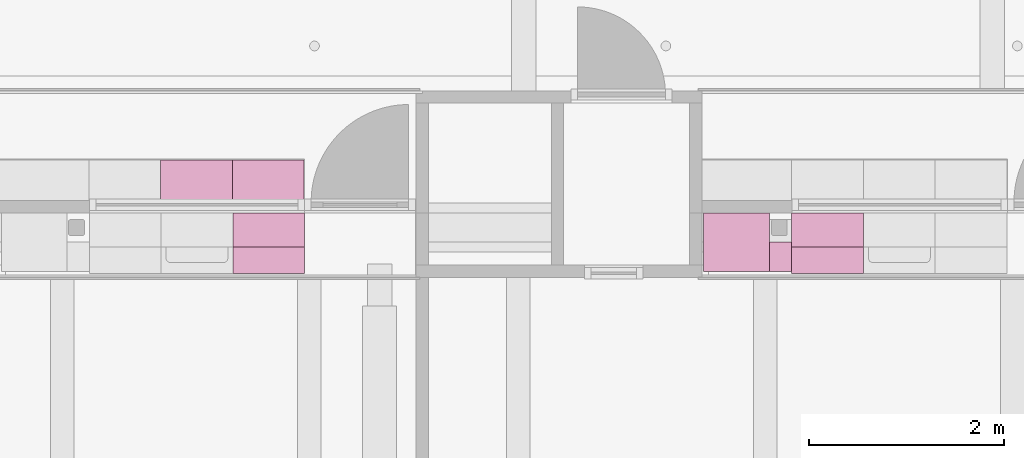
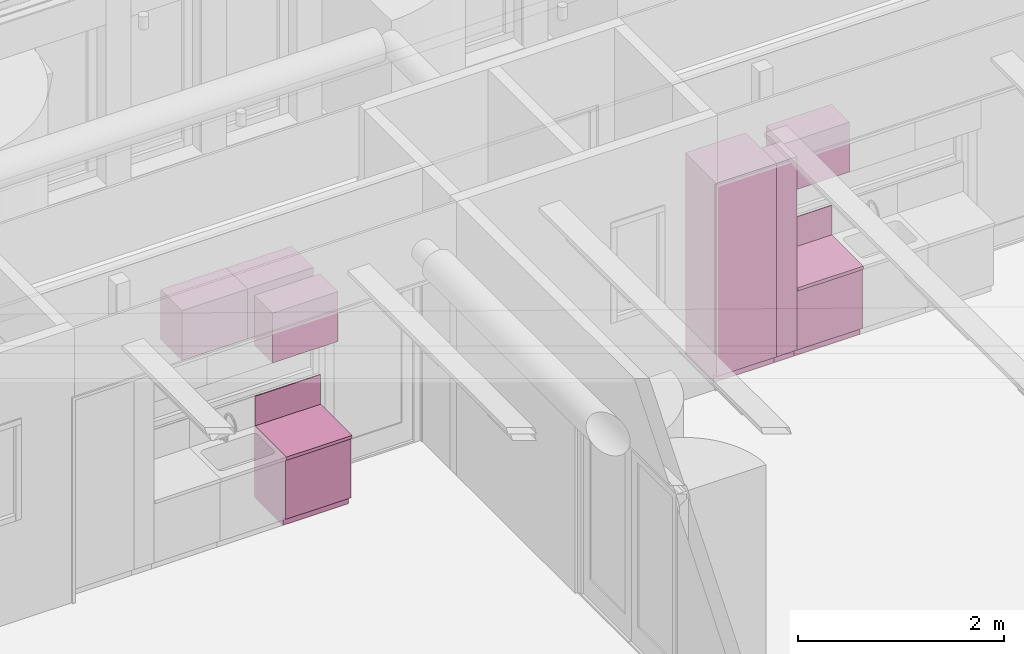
# One storey, part 89 of 128: 6 furnishings.
"""IFC2X3 building model written with IfcOpenShell, lengths in millimetres."""

from ifc_helpers import new_model, entity, si_unit, converted_unit, derived_unit, direction, frame, origin, origin_2d_with_axis, place, context, subcontext, project, spatial, polyline, rectangle, outline, extrude, source, transform, mapped, material, type_object, type_shapes, element, save


model = new_model("IFC2X3")

# Units and contexts
model_context = context("Model", 3, precision=0.01, world=origin(), true_north=direction((6.123031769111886e-17, 1.0)))
body_context = subcontext(model_context, "Body", "Model", "MODEL_VIEW")
ifc_project = project(units=[si_unit("LENGTHUNIT", "METRE", prefix="MILLI"), si_unit("AREAUNIT", "SQUARE_METRE"), si_unit("VOLUMEUNIT", "CUBIC_METRE"), converted_unit("PLANEANGLEUNIT", "DEGREE", entity("IfcRatioMeasure", 0.017453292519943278), si_unit("PLANEANGLEUNIT", "RADIAN"), dimensions=[0, 0, 0, 0, 0, 0, 0]), si_unit("MASSUNIT", "GRAM", prefix="KILO"), derived_unit("MASSDENSITYUNIT", [(si_unit("MASSUNIT", "GRAM", prefix="KILO"), 1), (si_unit("LENGTHUNIT", "METRE"), -3)]), derived_unit("IONCONCENTRATIONUNIT", [(si_unit("MASSUNIT", "GRAM", prefix="KILO"), 1), (si_unit("LENGTHUNIT", "METRE"), -3)]), derived_unit("MOMENTOFINERTIAUNIT", [(si_unit("LENGTHUNIT", "METRE"), 4)]), si_unit("TIMEUNIT", "SECOND"), si_unit("FREQUENCYUNIT", "HERTZ"), si_unit("THERMODYNAMICTEMPERATUREUNIT", "DEGREE_CELSIUS"), derived_unit("THERMALTRANSMITTANCEUNIT", [(si_unit("MASSUNIT", "GRAM", prefix="KILO"), 1), (si_unit("THERMODYNAMICTEMPERATUREUNIT", "KELVIN"), -1), (si_unit("TIMEUNIT", "SECOND"), -3)]), derived_unit("THERMALCONDUCTANCEUNIT", [(si_unit("MASSUNIT", "GRAM", prefix="KILO"), 1), (si_unit("THERMODYNAMICTEMPERATUREUNIT", "KELVIN"), -1), (si_unit("TIMEUNIT", "SECOND"), -3), (si_unit("LENGTHUNIT", "METRE"), 1)]), derived_unit("VOLUMETRICFLOWRATEUNIT", [(si_unit("LENGTHUNIT", "METRE"), 3), (si_unit("TIMEUNIT", "SECOND"), -1)]), derived_unit("MASSFLOWRATEUNIT", [(si_unit("MASSUNIT", "GRAM", prefix="KILO"), 1), (si_unit("TIMEUNIT", "SECOND"), -1)]), derived_unit("ROTATIONALFREQUENCYUNIT", [(si_unit("TIMEUNIT", "SECOND"), -1)]), si_unit("ELECTRICCURRENTUNIT", "AMPERE"), si_unit("ELECTRICVOLTAGEUNIT", "VOLT"), si_unit("POWERUNIT", "WATT"), si_unit("FORCEUNIT", "NEWTON", prefix="KILO"), si_unit("ILLUMINANCEUNIT", "LUX"), si_unit("LUMINOUSFLUXUNIT", "LUMEN"), si_unit("LUMINOUSINTENSITYUNIT", "CANDELA"), derived_unit("USERDEFINED", [(si_unit("MASSUNIT", "GRAM", prefix="KILO"), -1), (si_unit("LENGTHUNIT", "METRE"), -2), (si_unit("TIMEUNIT", "SECOND"), 3), (si_unit("LUMINOUSFLUXUNIT", "LUMEN"), 1)]), derived_unit("USERDEFINED", [(si_unit("MASSUNIT", "GRAM", prefix="KILO"), 1), (si_unit("TIMEUNIT", "SECOND"), -3), (si_unit("LENGTHUNIT", "METRE"), 3), (si_unit("ELECTRICCURRENTUNIT", "AMPERE"), -2)]), derived_unit("SOUNDPOWERUNIT", [(si_unit("MASSUNIT", "GRAM", prefix="KILO"), 1), (si_unit("TIMEUNIT", "SECOND"), -3), (si_unit("LENGTHUNIT", "METRE"), 2)]), derived_unit("SOUNDPRESSUREUNIT", [(si_unit("MASSUNIT", "GRAM", prefix="KILO"), 1), (si_unit("LENGTHUNIT", "METRE"), -1), (si_unit("TIMEUNIT", "SECOND"), -2)]), derived_unit("LINEARVELOCITYUNIT", [(si_unit("LENGTHUNIT", "METRE"), 1), (si_unit("TIMEUNIT", "SECOND"), -1)]), si_unit("PRESSUREUNIT", "PASCAL"), derived_unit("USERDEFINED", [(si_unit("MASSUNIT", "GRAM", prefix="KILO"), 1), (si_unit("LENGTHUNIT", "METRE"), -2), (si_unit("TIMEUNIT", "SECOND"), -2)]), derived_unit("LINEARFORCEUNIT", [(si_unit("MASSUNIT", "GRAM", prefix="KILO"), 1), (si_unit("TIMEUNIT", "SECOND"), -2)]), derived_unit("PLANARFORCEUNIT", [(si_unit("MASSUNIT", "GRAM", prefix="KILO"), 1), (si_unit("LENGTHUNIT", "METRE"), -1), (si_unit("TIMEUNIT", "SECOND"), -2)]), derived_unit("SPECIFICHEATCAPACITYUNIT", [(si_unit("THERMODYNAMICTEMPERATUREUNIT", "KELVIN"), -1), (si_unit("LENGTHUNIT", "METRE"), 2), (si_unit("TIMEUNIT", "SECOND"), -2)]), derived_unit("HEATINGVALUEUNIT", [(si_unit("LENGTHUNIT", "METRE"), 2), (si_unit("TIMEUNIT", "SECOND"), -2)]), derived_unit("VAPORPERMEABILITYUNIT", [(si_unit("LENGTHUNIT", "METRE"), -1), (si_unit("TIMEUNIT", "SECOND"), 1)]), derived_unit("DYNAMICVISCOSITYUNIT", [(si_unit("MASSUNIT", "GRAM", prefix="KILO"), 1), (si_unit("TIMEUNIT", "SECOND"), -1), (si_unit("LENGTHUNIT", "METRE"), -1)]), derived_unit("THERMALEXPANSIONCOEFFICIENTUNIT", [(si_unit("THERMODYNAMICTEMPERATUREUNIT", "KELVIN"), -1)]), derived_unit("MODULUSOFELASTICITYUNIT", [(si_unit("MASSUNIT", "GRAM", prefix="KILO"), 1), (si_unit("LENGTHUNIT", "METRE"), -1), (si_unit("TIMEUNIT", "SECOND"), -2)]), derived_unit("ISOTHERMALMOISTURECAPACITYUNIT", [(si_unit("LENGTHUNIT", "METRE"), 3), (si_unit("MASSUNIT", "GRAM", prefix="KILO"), -1)]), derived_unit("MOISTUREDIFFUSIVITYUNIT", [(si_unit("TIMEUNIT", "SECOND"), -1), (si_unit("LENGTHUNIT", "METRE"), 2)])], contexts=[model_context])

# Site, building, storey, space
site_placement = place(None, frame((0.0, 300.0, 0.0)))
site = spatial("IfcSite", under=ifc_project, at=site_placement, Name="<Kadastrale nummers>", CompositionType="ELEMENT")
building_placement = place(site_placement, origin())
building = spatial("IfcBuilding", under=site, at=building_placement, CompositionType="ELEMENT")
storey_placement = place(building_placement, frame((0.0, 0.0, 3560.0000331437)))
storey = spatial("IfcBuildingStorey", under=building, at=storey_placement, Name="01 eerste verdieping", CompositionType="ELEMENT", Elevation=3560.0000331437)
space_1_placement = place(storey_placement, origin())
space_1 = spatial("IfcSpace", under=storey, at=space_1_placement, Name="1.02", CompositionType="ELEMENT", InteriorOrExteriorSpace="INTERNAL")

# Furnishing
ifc_material = material(Name="ISR_HPL Kleur hout")
furniture_type_1 = type_object("IfcFurnitureType", Name="00_DAT Vaste inrichting Keukenkasten:Kast met Bovenkast bovenbouw", material=ifc_material)
shared_shape_1 = source(origin(), body_context, "Body", "SweptSolid", [
    extrude(rectangle(XDim=9.999999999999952, YDim=734.9999999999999, at=origin_2d_with_axis()), frame((367.49999999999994, 5.0, 850.0), z_axis=(0.0, 0.0, 1.0), x_axis=(0.0, -1.0, 0.0)), (0.0, 0.0, 1.0), 350.00000000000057),
    extrude(outline(polyline([(-440.5, 107.50000000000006), (-440.5, -442.4999999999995), (409.4999999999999, -442.4999999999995), (409.4999999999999, 177.49999999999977), (371.4999999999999, 177.49999999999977), (371.4999999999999, 157.49999999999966), (-340.4999999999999, 157.49999999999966), (-340.4999999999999, 107.50000000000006), (-440.5, 107.50000000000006)])), frame((0.0, 442.4999999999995, 440.5), z_axis=(-1.0, 0.0, 0.0), x_axis=(0.0, 0.0, 1.0)), (0.0, 0.0, -1.0), 735.0000000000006),
    extrude(rectangle(XDim=350.0, YDim=735.0000000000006, at=origin_2d_with_axis()), frame((367.5000000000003, 175.0, 1800.0), z_axis=(0.0, 0.0, 1.0), x_axis=(0.0, -1.0, 0.0)), (0.0, 0.0, 1.0), 590.0000000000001),
])
type_shapes(furniture_type_1, [shared_shape_1])
furnishing_1_placement = place(space_1_placement, frame((16136.0, 45450.0, 90.00000187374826), z_axis=(0.0, 0.0, 1.0), x_axis=(-1.0, 0.0, 0.0)))
element("IfcFurnishingElement", 1, at=furnishing_1_placement, inside=space_1, type_object=furniture_type_1, material=ifc_material, Name="00_DAT Vaste inrichting Keukenkasten:Kast met Bovenkast bovenbouw", ObjectType="00_DAT Vaste inrichting Keukenkasten:Kast met Bovenkast bovenbouw", context=body_context, shape_type="MappedRepresentation", body=[
    mapped(shared_shape_1, transform((0.0, 0.0, 0.0), scale=1.0)),
])

# Space
space_2_placement = place(storey_placement, origin())
space_2 = spatial("IfcSpace", under=storey, at=space_2_placement, Name="1.03", CompositionType="ELEMENT", InteriorOrExteriorSpace="INTERNAL")

# Furnishings
furniture_type_2 = type_object("IfcFurnitureType", Name="00_DAT Vaste inrichting Keukenkasten:Kast met Bovenkast bovenbouw", material=ifc_material)
shared_shape_2 = source(origin(), body_context, "Body", "SweptSolid", [
    extrude(rectangle(XDim=9.999999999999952, YDim=734.9999999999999, at=origin_2d_with_axis()), frame((367.49999999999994, 5.0, 850.0), z_axis=(0.0, 0.0, 1.0), x_axis=(0.0, -1.0, 0.0)), (0.0, 0.0, 1.0), 350.00000000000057),
    extrude(outline(polyline([(-440.5, 107.50000000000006), (-440.5, -442.4999999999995), (409.4999999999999, -442.4999999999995), (409.4999999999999, 177.49999999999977), (371.4999999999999, 177.49999999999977), (371.4999999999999, 157.49999999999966), (-340.4999999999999, 157.49999999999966), (-340.4999999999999, 107.50000000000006), (-440.5, 107.50000000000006)])), frame((0.0, 442.4999999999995, 440.5), z_axis=(-1.0, 0.0, 0.0), x_axis=(0.0, 0.0, 1.0)), (0.0, 0.0, -1.0), 735.0000000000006),
    extrude(rectangle(XDim=350.0, YDim=735.0000000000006, at=origin_2d_with_axis()), frame((367.5000000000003, 175.0, 1800.0), z_axis=(0.0, 0.0, 1.0), x_axis=(0.0, -1.0, 0.0)), (0.0, 0.0, 1.0), 590.0000000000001),
])
type_shapes(furniture_type_2, [shared_shape_2])
furnishing_2_placement = place(space_2_placement, frame((21861.0, 45450.0, 90.00000187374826), z_axis=(0.0, 0.0, 1.0), x_axis=(-1.0, 0.0, 0.0)))
element("IfcFurnishingElement", 2, at=furnishing_2_placement, inside=space_2, type_object=furniture_type_2, material=ifc_material, Name="00_DAT Vaste inrichting Keukenkasten:Kast met Bovenkast bovenbouw", ObjectType="00_DAT Vaste inrichting Keukenkasten:Kast met Bovenkast bovenbouw", context=body_context, shape_type="MappedRepresentation", body=[
    mapped(shared_shape_2, transform((0.0, 0.0, 0.0), scale=1.0)),
])
furniture_type_3 = type_object("IfcFurnitureType", Name="00_DAT Vaste inrichting Keukenkasten hoog:Hogekast Lokaal 675B", material=ifc_material)
shared_shape_3 = source(origin(), body_context, "Body", "SweptSolid", [
    extrude(outline(polyline([(-830.0, 166.66666666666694), (-830.0, -383.3333333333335), (1560.0, -383.3333333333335), (1560.0, 216.66666666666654), (-730.0, 216.66666666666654), (-730.0, 166.66666666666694), (-830.0, 166.66666666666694)])), frame((0.0, 383.3333333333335, 830.0), z_axis=(-1.0, 0.0, 0.0), x_axis=(0.0, 0.0, 1.0)), (0.0, 0.0, -1.0), 675.0000000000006),
])
type_shapes(furniture_type_3, [shared_shape_3])
furnishing_3_placement = place(space_2_placement, frame((20900.0, 45450.0, 90.00000187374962), z_axis=(0.0, 0.0, 1.0), x_axis=(-1.0, 0.0, 0.0)))
element("IfcFurnishingElement", 3, at=furnishing_3_placement, inside=space_2, type_object=furniture_type_3, material=ifc_material, Name="00_DAT Vaste inrichting Keukenkasten hoog:Hogekast Lokaal 675B", ObjectType="00_DAT Vaste inrichting Keukenkasten hoog:Hogekast Lokaal 675B", context=body_context, shape_type="MappedRepresentation", body=[
    mapped(shared_shape_3, transform((0.0, 0.0, 0.0), scale=1.0)),
])
furniture_type_4 = type_object("IfcFurnitureType", Name="00_DAT Vaste inrichting Keukenkasten hoog:Plaat hoge kast", material=ifc_material)
shared_shape_4 = source(origin(), body_context, "Body", "SweptSolid", [
    extrude(outline(polyline([(-830.0, 66.66666666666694), (-830.0, -183.33333333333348), (1560.0, -183.33333333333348), (1560.0, 116.66666666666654), (-730.0, 116.66666666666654), (-730.0, 66.66666666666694), (-830.0, 66.66666666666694)])), frame((0.0, 183.33333333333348, 830.0), z_axis=(-1.0, 0.0, 0.0), x_axis=(0.0, 0.0, 1.0)), (0.0, 0.0, -1.0), 226.00000000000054),
])
type_shapes(furniture_type_4, [shared_shape_4])
furnishing_4_placement = place(space_2_placement, frame((21126.0, 45150.0, 90.0000018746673), z_axis=(0.0, 0.0, 1.0), x_axis=(-1.0, 0.0, 0.0)))
element("IfcFurnishingElement", 4, at=furnishing_4_placement, inside=space_2, type_object=furniture_type_4, material=ifc_material, Name="00_DAT Vaste inrichting Keukenkasten hoog:Plaat hoge kast", ObjectType="00_DAT Vaste inrichting Keukenkasten hoog:Plaat hoge kast", context=body_context, shape_type="MappedRepresentation", body=[
    mapped(shared_shape_4, transform((0.0, 0.0, 0.0), scale=1.0)),
])

# Space
space_3_placement = place(storey_placement, origin())
space_3 = spatial("IfcSpace", under=storey, at=space_3_placement, Name="1.02a", CompositionType="ELEMENT", InteriorOrExteriorSpace="INTERNAL")

# Furnishings
furniture_type_5 = type_object("IfcFurnitureType", Name="00_DAT Vaste inrichting Boven Keukenkasten:Bovenkast Gaderobe bso", material=ifc_material)
shared_shape_5 = source(origin(), body_context, "Body", "SweptSolid", [
    extrude(rectangle(XDim=415.0, YDim=735.0000000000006, at=origin_2d_with_axis()), frame((367.5000000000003, 207.5, 1800.0), z_axis=(0.0, 0.0, 1.0), x_axis=(0.0, -1.0, 0.0)), (0.0, 0.0, 1.0), 589.9999999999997),
])
type_shapes(furniture_type_5, [shared_shape_5])
furnishing_5_placement = place(space_3_placement, frame((15396.0, 45575.0, 90.00000187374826)))
element("IfcFurnishingElement", 5, at=furnishing_5_placement, inside=space_3, type_object=furniture_type_5, material=ifc_material, Name="00_DAT Vaste inrichting Boven Keukenkasten:Bovenkast Gaderobe bso", ObjectType="00_DAT Vaste inrichting Boven Keukenkasten:Bovenkast Gaderobe bso", context=body_context, shape_type="MappedRepresentation", body=[
    mapped(shared_shape_5, transform((0.0, 0.0, 0.0), scale=1.0)),
])
furniture_type_6 = type_object("IfcFurnitureType", Name="00_DAT Vaste inrichting Boven Keukenkasten:Bovenkast Gaderobe bso", material=ifc_material)
shared_shape_6 = source(origin(), body_context, "Body", "SweptSolid", [
    extrude(rectangle(XDim=415.0, YDim=735.0000000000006, at=origin_2d_with_axis()), frame((367.5000000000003, 207.5, 1800.0), z_axis=(0.0, 0.0, 1.0), x_axis=(0.0, -1.0, 0.0)), (0.0, 0.0, 1.0), 589.9999999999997),
])
type_shapes(furniture_type_6, [shared_shape_6])
furnishing_6_placement = place(space_3_placement, frame((14661.0, 45575.0, 90.00000187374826)))
element("IfcFurnishingElement", 6, at=furnishing_6_placement, inside=space_3, type_object=furniture_type_6, material=ifc_material, Name="00_DAT Vaste inrichting Boven Keukenkasten:Bovenkast Gaderobe bso", ObjectType="00_DAT Vaste inrichting Boven Keukenkasten:Bovenkast Gaderobe bso", context=body_context, shape_type="MappedRepresentation", body=[
    mapped(shared_shape_6, transform((0.0, 0.0, 0.0), scale=1.0)),
])

save(model, "model.ifc")
